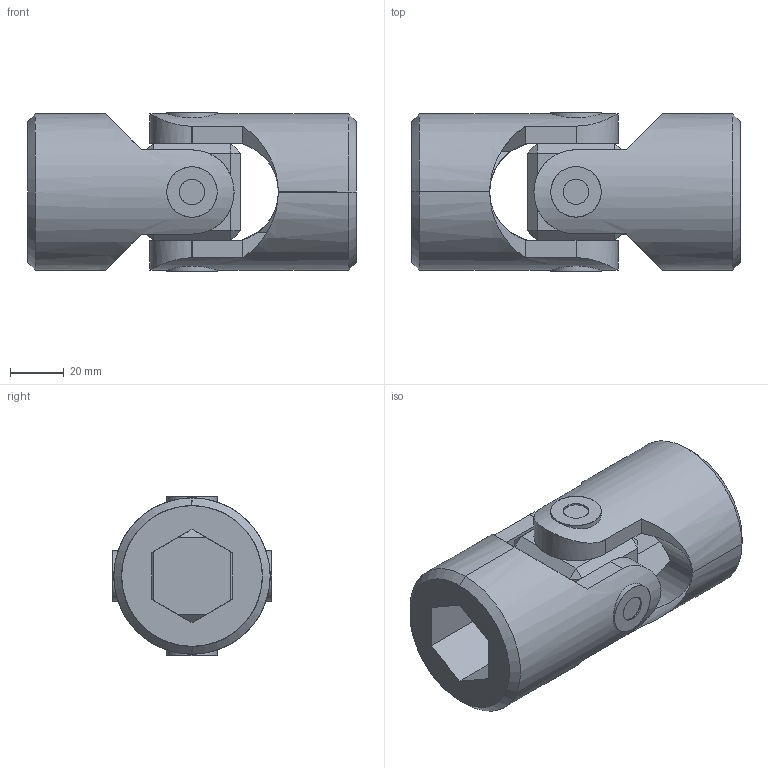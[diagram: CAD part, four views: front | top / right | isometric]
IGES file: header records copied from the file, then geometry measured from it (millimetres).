
Start section: SolidWorks IGES file using analytic representation for surfaces
Global section: file name: C:\Users\IanO\Desktop\R3690_v2\R3690_v2_20231020_IGES\R3690.030-HB.igs; native system: SolidWorks 2019; preprocessor: SolidWorks 2019; author: IanO; date: 231020.152823; units: millimetre
Bounding box: 122 x 59.16 x 59.16 mm (x, y, z)
Surface area: 54372.1 mm2 (no closed solid volume)
Topology: 0 solids, 0 shells, 112 faces, 2304 edges, 2304 vertices
Faces by surface type: bspline 68, revolution 44
